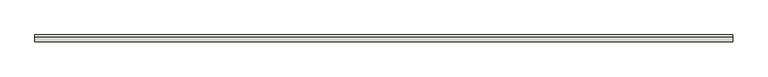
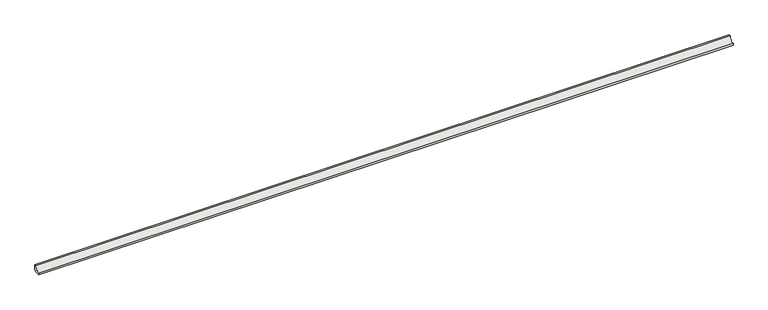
"""IFC4 building model written with IfcOpenShell, lengths in millimetres: slab geometry, ROSA GRES_188 : Pieza 188_Serena_Ocra_Anti-Slip."""

from ifc_helpers import new_model, si_unit, point, frame, frame_2d, origin, place, context, project, spatial, polyline, circle_curve, trimmed, segment, composite_curve, outline, extrude, source, transform, mapped, element, save


def slab_1d4ed46a(model_context):
    return source(origin(), model_context, "Body", "SweptSolid", [
        extrude(outline(composite_curve([segment(polyline([(0.0, 8.7114978), (-8.7114978, 0.0), (-40.0, 0.0), (-40.0, 9.9734114)]), True, "CONTINUOUS"), segment(trimmed(circle_curve(frame_2d((-39.9955547, 39.9955547)), 30.0221435), [point((-40.0, 9.9734114))], [point((-9.9734114, 40.0))], True, "CARTESIAN"), True, "CONTINUOUS"), segment(polyline([(-9.9734114, 40.0), (0.0, 40.0), (0.0, 8.7114978)]), True, "CONTINUOUS")], self_intersect=False)), frame((0.0, 0.0, 0.0), z_axis=(1.0, 0.0, 0.0), x_axis=(0.0, 1.0, 0.0)), (0.0, 0.0, 1.0), 4155.4734114),
    ])


if __name__ == "__main__":
    model = new_model("IFC4")
    model_context = context("Model", 3, world=origin())
    ifc_project = project(units=[si_unit("LENGTHUNIT", "METRE", prefix="MILLI")], contexts=[model_context])
    site = spatial("IfcSite", under=ifc_project)
    building = spatial("IfcBuilding", under=site)
    placement = place(None, origin())
    slab_shape = slab_1d4ed46a(model_context)
    element("IfcSlab", 1, ObjectType="ROSA GRES_188 : Pieza 188_Serena_Ocra_Anti-Slip", at=placement, inside=building, context=model_context, shape_type="MappedRepresentation", body=[
        mapped(slab_shape, transform((0.0, 0.0, 0.0), x_axis=(1.0, 0.0, 0.0), y_axis=(0.0, 1.0, 0.0), z_axis=(0.0, 0.0, 1.0))),
    ])
    save(model, "model.ifc")
